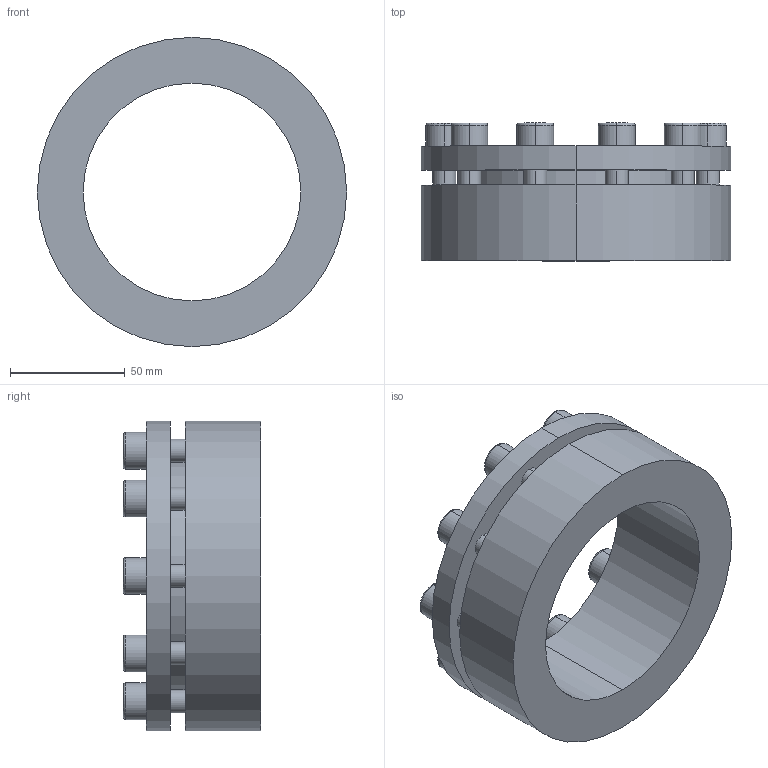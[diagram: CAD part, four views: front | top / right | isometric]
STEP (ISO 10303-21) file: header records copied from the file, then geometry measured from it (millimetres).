
FILE_DESCRIPTION (( 'STEP AP203' ), '1' );
FILE_NAME ('PL-H1 95-135.STEP', '2021-10-23T00:57:07', ( '' ), ( '' ), 'SwSTEP 2.0', 'SolidWorks 2018', '' );
FILE_SCHEMA (( 'CONFIG_CONTROL_DESIGN' ));
Length unit declared in the file: millimetre
Products named in the file (1): PL-H1 95-135
Bounding box: 135 x 60 x 135 mm (x, y, z)
Volume: 342655.1 mm3; surface area: 69152.7 mm2
Topology: 1 solids, 1 shells, 152 faces, 364 edges, 236 vertices
Faces by surface type: plane 84, cylinder 48, torus 20
Entity records: 4545 total; most frequent: DIRECTION 806, CARTESIAN_POINT 753, ORIENTED_EDGE 728, EDGE_CURVE 364, AXIS2_PLACEMENT_3D 289, VERTEX_POINT 236, LINE 228, VECTOR 228
